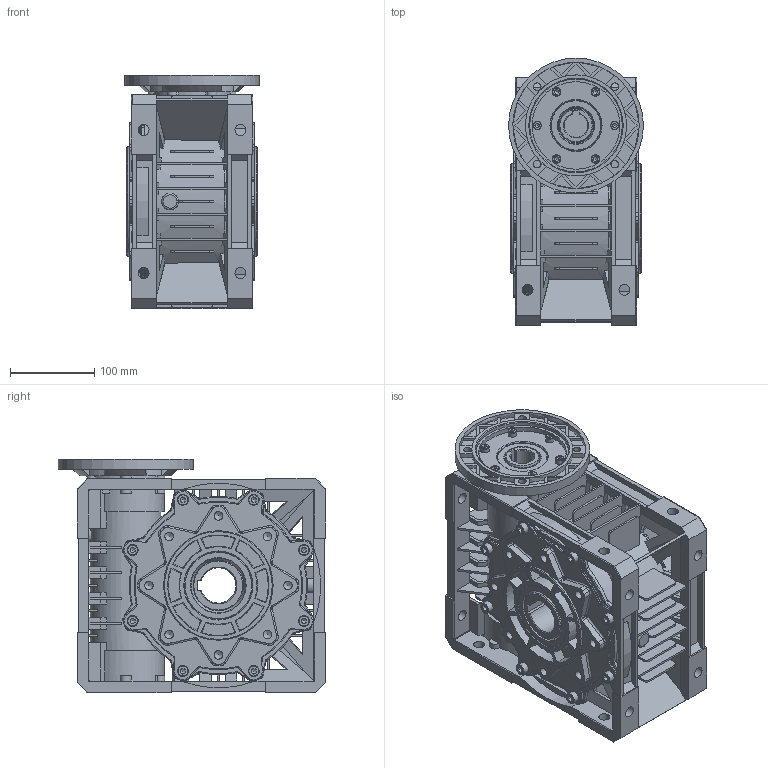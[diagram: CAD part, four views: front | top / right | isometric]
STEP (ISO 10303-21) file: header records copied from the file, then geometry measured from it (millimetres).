
FILE_DESCRIPTION((''),'2;1');
FILE_NAME('C:\Users\m.piscopiello.SITIRIDUTTORI\Desktop\FIGURINI VSF\FIG STEP\U-MU 110 STEP_old\MU 110 PAM 100 B14.stp','2016-03-08T10:39:35',('m.piscopiello'),(''),'Autodesk Inventor 2012','Autodesk Inventor 2012','');
FILE_SCHEMA(('CONFIG_CONTROL_DESIGN'));
Length unit declared in the file: millimetre
Products named in the file (1): 3F021179
Bounding box: 160 x 317.5 x 277.5 mm (x, y, z)
Volume: 6243210.4 mm3; surface area: 876531.5 mm2
Topology: 1 solids, 25 shells, 2147 faces, 5843 edges, 3707 vertices
Faces by surface type: plane 1141, cylinder 545, torus 233, cone 146, bspline 74, sphere 8
Full cylindrical faces by diameter (mm): 4.917 x12, 6 x12, 6.5 x6, 8 x24, 9 x12, 10 x6, 10.106 x16, 13 x24, 20 x1, 40 x2, 43.75 x1, 45.438 x1, 52 x1, 56.6 x1, 60 x6, 66 x2, 75 x2, 76.875 x1, 78 x1, 80 x7, 84 x1, 104 x1, 110 x1, 120 x1, 130 x2, 150 x1, 160 x1
Entity records: 67901 total; most frequent: CARTESIAN_POINT 14946, DIRECTION 11132, ORIENTED_EDGE 10866, EDGE_CURVE 5433, AXIS2_PLACEMENT_3D 4101, VERTEX_POINT 3604, VECTOR 2930, LINE 2930
